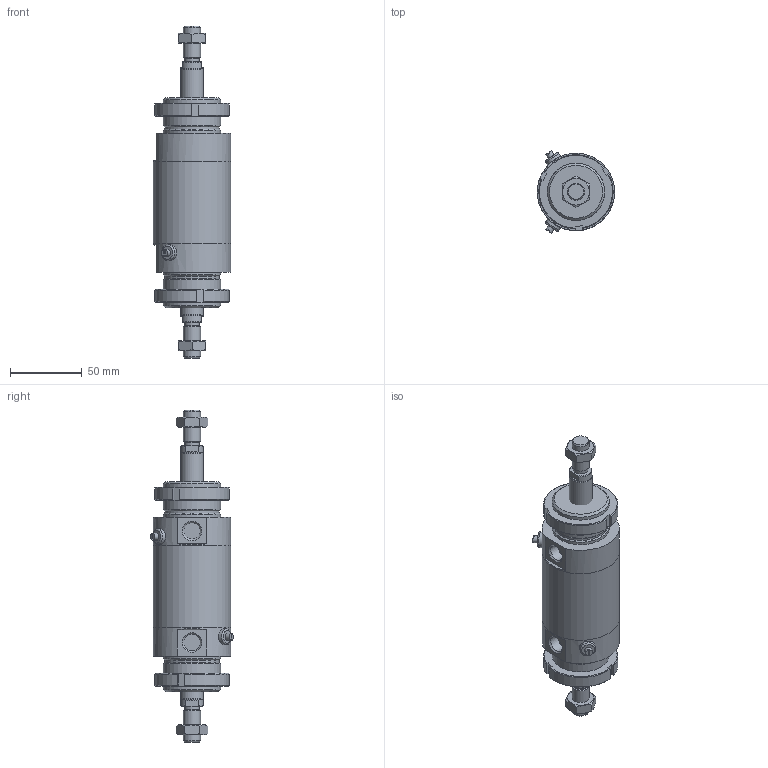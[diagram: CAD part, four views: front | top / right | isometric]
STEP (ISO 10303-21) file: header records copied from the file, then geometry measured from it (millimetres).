
FILE_DESCRIPTION(/* description */ (''),/* implementation_level */ '2;1');
FILE_NAME(/* name */ 'I:\Area Tecnica\Documenti\A-Manieri\_Inventor\12X\12X#S_###_####_#_#\12XDS_050_0015_#_#.stp',/* time_stamp */ '2015-05-13T08:20:12+02:00',/* author */ ('maniean1'),/* organization */ ('Pneumax S.p.A.'),/* preprocessor_version */ 'ST-DEVELOPER v15.2',/* originating_system */ 'Autodesk Inventor 2014',/* authorisation */ '');
FILE_SCHEMA (('AUTOMOTIVE_DESIGN { 1 0 10303 214 3 1 1 }'));
Length unit declared in the file: millimetre
Products named in the file (6): C1250_619-0015; 12X50_606; SP12X50_0015; 12X_50_11; G12X_050_05; 12XDS_050_0015_#_#
Bounding box: 54 x 57.75 x 232 mm (x, y, z)
Volume: 289984.7 mm3; surface area: 75768.4 mm2
Topology: 8 solids, 8 shells, 151 faces, 346 edges, 223 vertices
Faces by surface type: plane 78, cylinder 37, cone 34, torus 2
Full cylindrical faces by diameter (mm): 5 x2, 10.2 x2, 11 x2, 11.4 x2, 12 x4, 14 x2, 15.6 x2, 16 x2, 38.2 x2, 40 x6, 50 x2, 54 x3
Entity records: 2556 total; most frequent: CARTESIAN_POINT 505, DIRECTION 428, ORIENTED_EDGE 342, AXIS2_PLACEMENT_3D 182, EDGE_CURVE 171, EDGE_LOOP 144, VERTEX_POINT 129, ADVANCED_FACE 94
